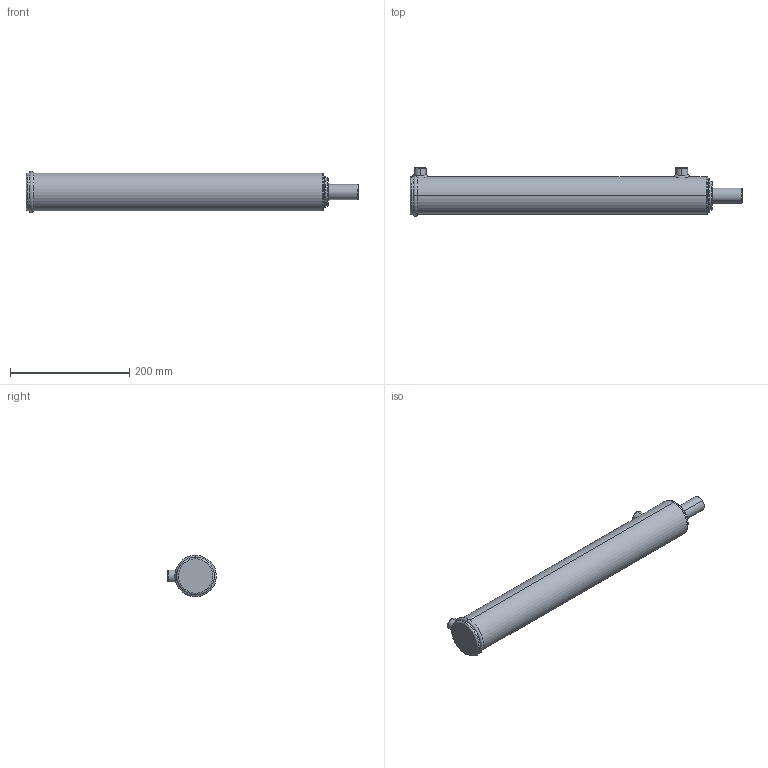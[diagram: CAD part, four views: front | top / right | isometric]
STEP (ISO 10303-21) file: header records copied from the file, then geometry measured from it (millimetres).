
FILE_DESCRIPTION (( 'STEP AP203' ), '1' );
FILE_NAME ('BL200100X406 (16).STEP', '2014-11-23T21:04:34', ( '' ), ( '' ), 'SwSTEP 2.0', 'SolidWorks 2014', '' );
FILE_SCHEMA (( 'CONFIG_CONTROL_DESIGN' ));
Length unit declared in the file: millimetre
Products named in the file (3): BL200100X406 (16); BL body 2_2x16; Spare_2x16
Assembly tree (2 placements, depth 2):
  BL200100X406 (16)
    BL body 2_2x16
    Spare_2x16
Bounding box: 557 x 81.5 x 69.5 mm (x, y, z)
Volume: 1757797.4 mm3; surface area: 176525.7 mm2
Topology: 2 solids, 2 shells, 83 faces, 192 edges, 118 vertices
Faces by surface type: cylinder 31, plane 20, torus 17, cone 8, bspline 7
Entity records: 4855 total; most frequent: CARTESIAN_POINT 2688, DIRECTION 416, ORIENTED_EDGE 376, EDGE_CURVE 188, AXIS2_PLACEMENT_3D 179, VERTEX_POINT 118, CIRCLE 98, EDGE_LOOP 96
